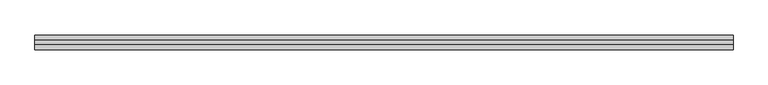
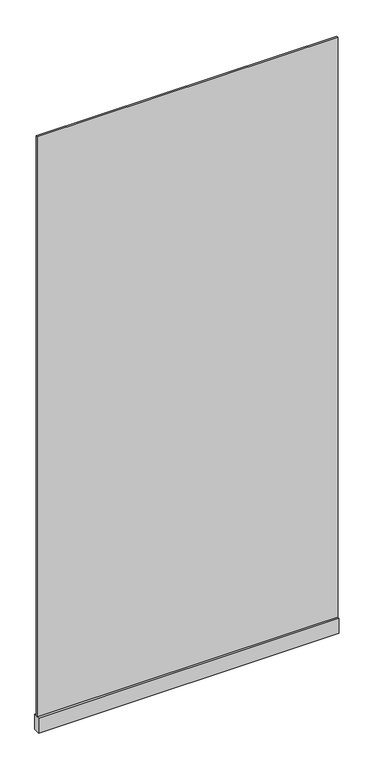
"""IFC4 building model written with IfcOpenShell, lengths in millimetres: plate geometry, r パネル FIX 下框付 : 框 H100."""

from ifc_helpers import new_model, si_unit, frame, origin, origin_with_axes, place, context, project, spatial, polyline, outline, extrude, source, transform, mapped, element, save


def plate_a5bdaeee(model_context):
    return source(origin(), model_context, "Body", "SweptSolid", [
        extrude(outline(polyline([(-950.7142857, -5.0), (-950.7142857, 5.0), (950.7142857, 5.0), (950.7142857, -5.0), (-950.7142857, -5.0)])), frame((0.0, 0.0, 100.0), z_axis=(0.0, 0.0, 1.0), x_axis=(1.0, 0.0, 0.0)), (0.0, 0.0, 1.0), 3875.0),
        extrude(outline(polyline([(-950.7142857, -20.0), (-950.7142857, 20.0), (950.7142857, 20.0), (950.7142857, -20.0), (-950.7142857, -20.0)])), origin_with_axes(), (0.0, 0.0, 1.0), 100.0),
    ])


if __name__ == "__main__":
    model = new_model("IFC4")
    model_context = context("Model", 3, world=origin())
    ifc_project = project(units=[si_unit("LENGTHUNIT", "METRE", prefix="MILLI")], contexts=[model_context])
    site = spatial("IfcSite", under=ifc_project)
    building = spatial("IfcBuilding", under=site)
    placement = place(None, origin())
    plate_shape = plate_a5bdaeee(model_context)
    element("IfcPlate", 1, ObjectType="r パネル FIX 下框付 : 框 H100", at=placement, inside=building, context=model_context, shape_type="MappedRepresentation", body=[
        mapped(plate_shape, transform((0.0, 0.0, 0.0), x_axis=(1.0, 0.0, 0.0), y_axis=(0.0, 1.0, 0.0), z_axis=(0.0, 0.0, 1.0))),
    ])
    save(model, "model.ifc")
